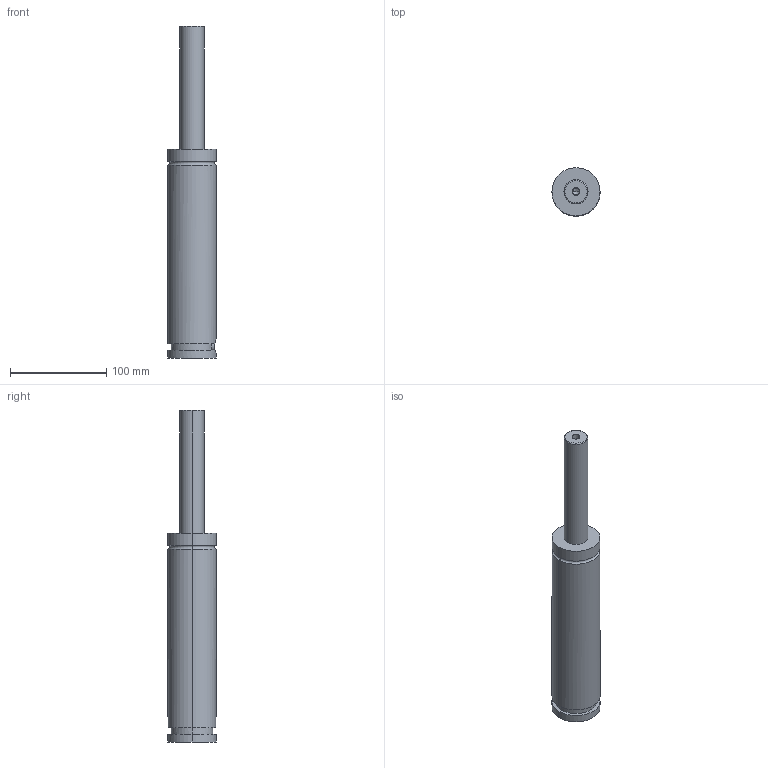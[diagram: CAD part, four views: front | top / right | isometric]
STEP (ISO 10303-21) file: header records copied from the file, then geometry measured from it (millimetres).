
FILE_DESCRIPTION(/* description */ (''),/* implementation_level */ '2;1');
FILE_NAME(/* name */ '3d_gse50-125_03889_r00.stp',/* time_stamp */ '2011-01-10T14:15:19+09:00',/* author */ ('MISUMI'),/* organization */ (''),/* preprocessor_version */ 'ST-DEVELOPER v11',/* originating_system */ 'UGS - NX 5.0',/* authorisation */ '');
FILE_SCHEMA (('CONFIG_CONTROL_DESIGN'));
Length unit declared in the file: millimetre
Products named in the file (1): 3d_gse50-125_03889_r00
Bounding box: 50 x 50 x 345 mm (x, y, z)
Volume: 481853.1 mm3; surface area: 50582 mm2
Topology: 1 solids, 1 shells, 57 faces, 125 edges, 79 vertices
Faces by surface type: cylinder 26, plane 21, cone 6, torus 4
Entity records: 1669 total; most frequent: DIRECTION 297, CARTESIAN_POINT 286, ORIENTED_EDGE 246, EDGE_CURVE 123, AXIS2_PLACEMENT_3D 122, VERTEX_POINT 79, EDGE_LOOP 68, CIRCLE 64
